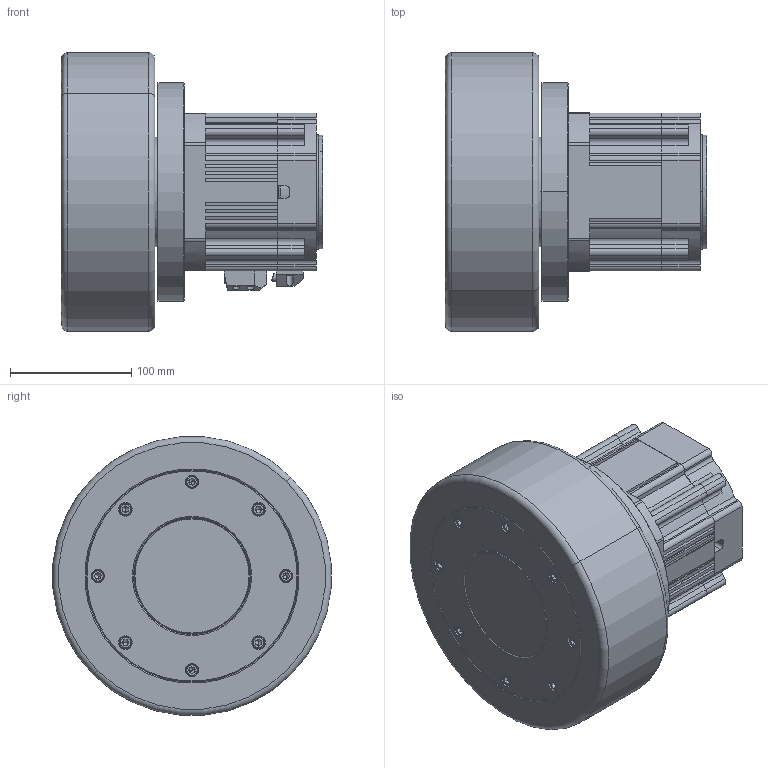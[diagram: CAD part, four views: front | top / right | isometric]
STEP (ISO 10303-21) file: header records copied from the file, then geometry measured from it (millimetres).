
FILE_DESCRIPTION((''),'2;1');
FILE_NAME('32-1300001_ASM','2024-12-10T12:53:40',('Administrator'),(''),'CREO PARAMETRIC BY PTC INC, 2018100','CREO PARAMETRIC BY PTC INC, 2018100','');
FILE_SCHEMA(('CONFIG_CONTROL_DESIGN'));
Length unit declared in the file: millimetre
Products named in the file (12): HEXAGON_SOCKET_HEAD_CAP_SCREWS_; SPRING_LOCK_WASHERS--NORMAL_TYP; AEQ-145C-032-15-22-1_X2_6A21578; AEQ-145-H77-W230; AEQ-145C-032-15-22-1-H77-W230_X_ASM; AEQ-145C-032-15-22-1-H77-W230_2_ASM; 0022; 0024; 00; 00500; 4000; 32-1300001_ASM
Assembly tree (25 placements, depth 4):
  32-1300001_ASM
    AEQ-145C-032-15-22-1-H77-W230_2_ASM
      AEQ-145C-032-15-22-1-H77-W230_X_ASM
        HEXAGON_SOCKET_HEAD_CAP_SCREWS_  x8
        SPRING_LOCK_WASHERS--NORMAL_TYP  x8
        AEQ-145C-032-15-22-1_X2_6A21578
        AEQ-145-H77-W230
    0022
    0024
    00
    00500
    4000
Bounding box: 215 x 229.12 x 229.12 mm (x, y, z)
Volume: 4263884.9 mm3; surface area: 522103.4 mm2
Topology: 23 solids, 34 shells, 1086 faces, 2729 edges, 1717 vertices
Faces by surface type: cylinder 465, plane 361, cone 144, torus 105, bspline 10, extrusion 1
Entity records: 27183 total; most frequent: CARTESIAN_POINT 5538, DIRECTION 4909, ORIENTED_EDGE 4182, EDGE_CURVE 2117, AXIS2_PLACEMENT_3D 1981, VERTEX_POINT 1374, CIRCLE 1091, EDGE_LOOP 1021
